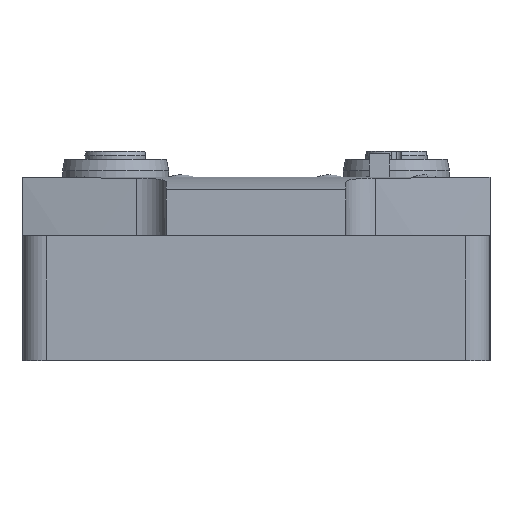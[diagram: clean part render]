
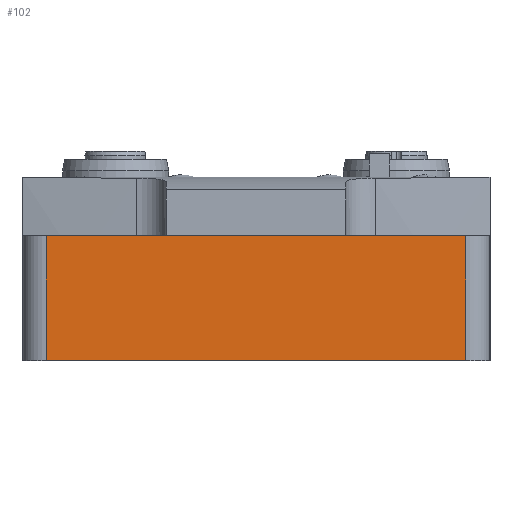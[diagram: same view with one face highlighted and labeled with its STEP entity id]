
A CAD part, front view. The second image highlights one B-rep face of the part: STEP entity #102.
In plain terms, the highlighted planar face has unit normal (0, -1, 0).
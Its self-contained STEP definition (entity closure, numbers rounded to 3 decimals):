
#102 = ADVANCED_FACE( '', ( #1175 ), #1176, .F. );
#1175 = FACE_OUTER_BOUND( '', #3459, .T. );
#1176 = PLANE( '', #3460 );
#3459 = EDGE_LOOP( '', ( #5959, #5960, #5961, #5962 ) );
#3460 = AXIS2_PLACEMENT_3D( '', #5963, #5964, #5965 );
#5959 = ORIENTED_EDGE( '', *, *, #14537, .F. );
#5960 = ORIENTED_EDGE( '', *, *, #14538, .T. );
#5961 = ORIENTED_EDGE( '', *, *, #14539, .T. );
#5962 = ORIENTED_EDGE( '', *, *, #14540, .F. );
#5963 = CARTESIAN_POINT( '', ( -27., 0., 23.5 ) );
#5964 = DIRECTION( '', ( 0., 1., 0. ) );
#5965 = DIRECTION( '', ( 0., 0., 1. ) );
#14537 = EDGE_CURVE( '', #17438, #17439, #17440, .T. );
#14538 = EDGE_CURVE( '', #17438, #17441, #17442, .T. );
#14539 = EDGE_CURVE( '', #17441, #17443, #17444, .T. );
#14540 = EDGE_CURVE( '', #17439, #17443, #17445, .T. );
#17438 = VERTEX_POINT( '', #22365 );
#17439 = VERTEX_POINT( '', #22366 );
#17440 = LINE( '', #22367, #22368 );
#17441 = VERTEX_POINT( '', #22369 );
#17442 = LINE( '', #22370, #22371 );
#17443 = VERTEX_POINT( '', #22372 );
#17444 = LINE( '', #22373, #22374 );
#17445 = LINE( '', #22375, #22376 );
#22365 = CARTESIAN_POINT( '', ( -26.9, 0., 16. ) );
#22366 = CARTESIAN_POINT( '', ( 26.9, 0., 16. ) );
#22367 = CARTESIAN_POINT( '', ( -26.9, 0., 16. ) );
#22368 = VECTOR( '', #29302, 1000. );
#22369 = CARTESIAN_POINT( '', ( -26.9, 0., 0. ) );
#22370 = CARTESIAN_POINT( '', ( -26.9, 0., 16. ) );
#22371 = VECTOR( '', #29303, 1000. );
#22372 = CARTESIAN_POINT( '', ( 26.9, 0., 0. ) );
#22373 = CARTESIAN_POINT( '', ( -26.9, 0., 0. ) );
#22374 = VECTOR( '', #29304, 1000. );
#22375 = CARTESIAN_POINT( '', ( 26.9, 0., 16. ) );
#22376 = VECTOR( '', #29305, 1000. );
#29302 = DIRECTION( '', ( 1., 0., 0. ) );
#29303 = DIRECTION( '', ( 0., 0., -1. ) );
#29304 = DIRECTION( '', ( 1., 0., 0. ) );
#29305 = DIRECTION( '', ( 0., 0., -1. ) );
